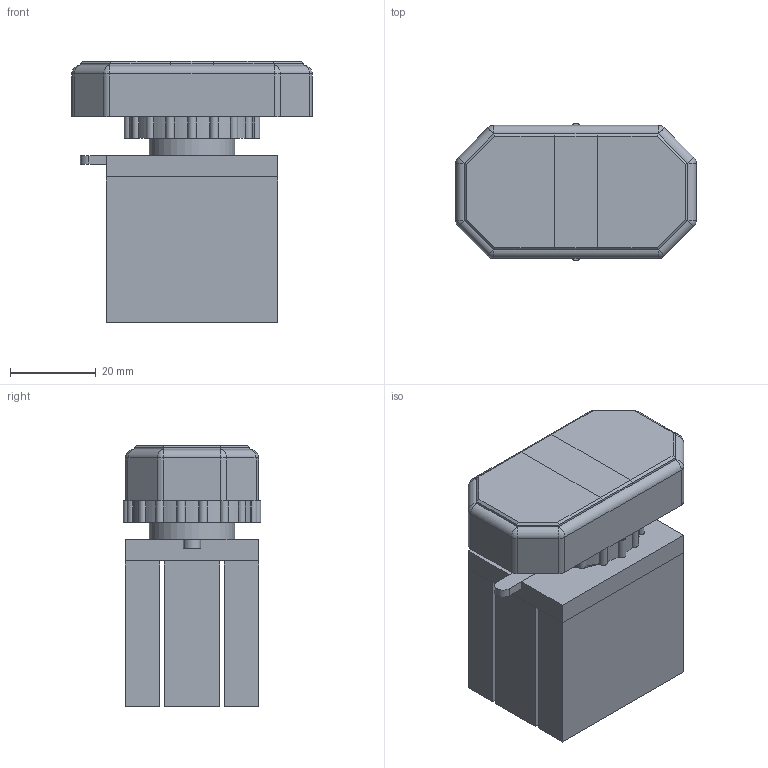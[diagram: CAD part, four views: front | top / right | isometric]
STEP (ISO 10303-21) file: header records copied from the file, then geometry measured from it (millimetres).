
FILE_DESCRIPTION(/* description */ (''),/* implementation_level */ '2;1');
FILE_NAME(/* name */ 'D:\CHINT3\NP8-SD.stp',/* time_stamp */ '2017-12-10T21:00:05+03:00',/* author */ ('RSagdiev'),/* organization */ (''),/* preprocessor_version */ 'ST-DEVELOPER v16.5',/* originating_system */ 'Autodesk Inventor 2017',/* authorisation */ '');
FILE_SCHEMA (('AUTOMOTIVE_DESIGN { 1 0 10303 214 3 1 1 }'));
Length unit declared in the file: millimetre
Products named in the file (1): NP8-SD
Bounding box: 56 x 32 x 61 mm (x, y, z)
Volume: 71069.3 mm3; surface area: 29257.2 mm2
Topology: 11 solids, 11 shells, 187 faces, 455 edges, 290 vertices
Faces by surface type: plane 125, cylinder 54, sphere 8
Full cylindrical faces by diameter (mm): 20 x1
Entity records: 5482 total; most frequent: DIRECTION 938, CARTESIAN_POINT 932, ORIENTED_EDGE 908, EDGE_CURVE 454, LINE 346, VECTOR 346, AXIS2_PLACEMENT_3D 296, VERTEX_POINT 290
